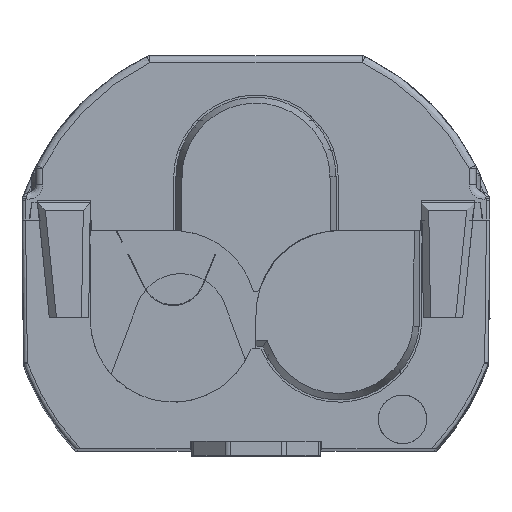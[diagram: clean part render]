
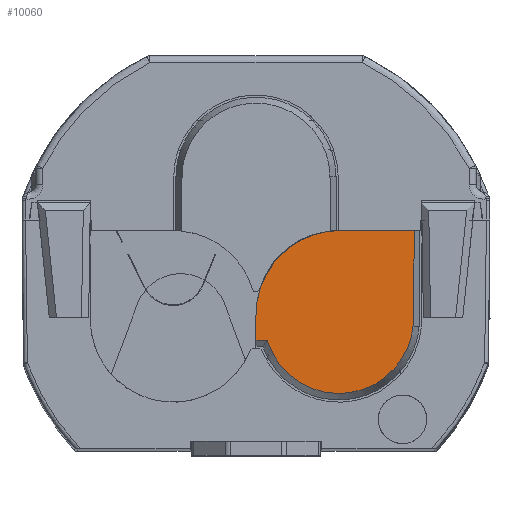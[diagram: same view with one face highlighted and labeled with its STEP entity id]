
A CAD part, top view. The second image highlights one B-rep face of the part: STEP entity #10060.
In plain terms, the highlighted planar face has unit normal (0, 0.009, 1).
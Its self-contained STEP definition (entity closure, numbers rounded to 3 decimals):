
#71 = ORIENTED_EDGE ( 'NONE', *, *, #4786, .T. ) ;
#294 = CARTESIAN_POINT ( 'NONE',  ( 18.051, 7.938, 106.393 ) ) ;
#822 = CARTESIAN_POINT ( 'NONE',  ( -30.25, 30., 106.2 ) ) ;
#892 = DIRECTION ( 'NONE',  ( 0., -1., 0.009 ) ) ;
#1033 = B_SPLINE_CURVE_WITH_KNOTS ( 'NONE', 3,
 ( #9319, #6972, #6773, #14574, #12840, #15523, #1915, #12918, #11566, #13015, #16659, #11211, #11438, #11490, #2361, #17556, #19202, #3410, #8107, #10471, #2616, #9988, #19415, #19881, #15786, #5711, #5426, #5081, #10069, #11608, #4947, #11548, #4039, #16054, #14437, #294, #5308, #5375, #16191, #13667, #13468, #1106, #8605, #3952, #4094, #8383 ),
 .UNSPECIFIED., .F., .F.,
 ( 4, 2, 2, 2, 2, 2, 2, 2, 2, 2, 2, 2, 2, 2, 2, 2, 2, 2, 2, 2, 2, 2, 4 ),
 ( 0.125, 0.126, 0.127, 0.129, 0.13, 0.131, 0.133, 0.134, 0.134, 0.136, 0.137, 0.138, 0.14, 0.141, 0.142, 0.144, 0.145, 0.145, 0.147, 0.149, 0.151, 0.153, 0.155 ),
 .UNSPECIFIED. ) ;
#1106 = CARTESIAN_POINT ( 'NONE',  ( 21.265, 12.195, 106.355 ) ) ;
#1206 = VERTEX_POINT ( 'NONE', #4330 ) ;
#1526 = CARTESIAN_POINT ( 'NONE',  ( 0., 13.16, 106.347 ) ) ;
#1730 = VECTOR ( 'NONE', #14483, 1000. ) ;
#1847 = VECTOR ( 'NONE', #5542, 1000. ) ;
#1915 = CARTESIAN_POINT ( 'NONE',  ( 2.822, 10.464, 106.37 ) ) ;
#2361 = CARTESIAN_POINT ( 'NONE',  ( 6.257, 7.179, 106.399 ) ) ;
#2616 = CARTESIAN_POINT ( 'NONE',  ( 9.594, 5.907, 106.41 ) ) ;
#2880 = CARTESIAN_POINT ( 'NONE',  ( 11.75, 28.5, 106.213 ) ) ;
#3029 = EDGE_CURVE ( 'NONE', #9860, #11662, #6878, .T. ) ;
#3410 = CARTESIAN_POINT ( 'NONE',  ( 7.862, 6.389, 106.406 ) ) ;
#3524 = AXIS2_PLACEMENT_3D ( 'NONE', #822, #10103, #892 ) ;
#3610 = VERTEX_POINT ( 'NONE', #17916 ) ;
#3952 = CARTESIAN_POINT ( 'NONE',  ( 21.798, 13.9, 106.34 ) ) ;
#4039 = CARTESIAN_POINT ( 'NONE',  ( 16.55, 6.968, 106.401 ) ) ;
#4094 = CARTESIAN_POINT ( 'NONE',  ( 21.911, 14.486, 106.335 ) ) ;
#4330 = CARTESIAN_POINT ( 'NONE',  ( 22.175, 28.5, 106.213 ) ) ;
#4786 = EDGE_CURVE ( 'NONE', #3610, #16745, #1033, .T. ) ;
#4858 = DIRECTION ( 'NONE',  ( 0., -1., 0.009 ) ) ;
#4947 = CARTESIAN_POINT ( 'NONE',  ( 15.465, 6.446, 106.406 ) ) ;
#5020 = CARTESIAN_POINT ( 'NONE',  ( 0., 16.75, 106.316 ) ) ;
#5081 = CARTESIAN_POINT ( 'NONE',  ( 13.753, 5.941, 106.41 ) ) ;
#5251 = LINE ( 'NONE', #17971, #12987 ) ;
#5308 = CARTESIAN_POINT ( 'NONE',  ( 18.509, 8.319, 106.389 ) ) ;
#5375 = CARTESIAN_POINT ( 'NONE',  ( 19.365, 9.166, 106.382 ) ) ;
#5426 = CARTESIAN_POINT ( 'NONE',  ( 13.164, 5.834, 106.411 ) ) ;
#5480 = CARTESIAN_POINT ( 'NONE',  ( 0., 23.633, 106.256 ) ) ;
#5542 = DIRECTION ( 'NONE',  ( 1., 0., 0. ) ) ;
#5711 = CARTESIAN_POINT ( 'NONE',  ( 12.865, 5.792, 106.411 ) ) ;
#5973 = EDGE_LOOP ( 'NONE', ( #15076, #15731, #18949, #71, #14351, #17312 ) ) ;
#6122 = DIRECTION ( 'NONE',  ( 1., 0., 0. ) ) ;
#6205 = CARTESIAN_POINT ( 'NONE',  ( 21.973, 15.086, 106.33 ) ) ;
#6210 = VECTOR ( 'NONE', #4858, 1000. ) ;
#6670 = EDGE_CURVE ( 'NONE', #11662, #1206, #5251, .T. ) ;
#6773 = CARTESIAN_POINT ( 'NONE',  ( 1.768, 12.604, 106.352 ) ) ;
#6878 =( BOUNDED_CURVE ( )  B_SPLINE_CURVE ( 3, ( #5020, #5480, #12779, #2880 ),
 .UNSPECIFIED., .F., .T. ) 
 B_SPLINE_CURVE_WITH_KNOTS ( ( 4, 4 ),
 ( 1.571, 3.142 ),
 .UNSPECIFIED. ) 
 CURVE ( )  GEOMETRIC_REPRESENTATION_ITEM ( )  RATIONAL_B_SPLINE_CURVE ( ( 1., 0.805, 0.805, 1. ) ) 
 REPRESENTATION_ITEM ( '' )  );
#6972 = CARTESIAN_POINT ( 'NONE',  ( 1.655, 12.882, 106.349 ) ) ;
#8107 = CARTESIAN_POINT ( 'NONE',  ( 8.425, 6.193, 106.408 ) ) ;
#8203 = EDGE_CURVE ( 'NONE', #16745, #1206, #9918, .T. ) ;
#8383 = CARTESIAN_POINT ( 'NONE',  ( 21.973, 15.086, 106.33 ) ) ;
#8605 = CARTESIAN_POINT ( 'NONE',  ( 21.475, 12.755, 106.35 ) ) ;
#9319 = CARTESIAN_POINT ( 'NONE',  ( 1.542, 13.16, 106.347 ) ) ;
#9335 = CARTESIAN_POINT ( 'NONE',  ( 11.75, 28.5, 106.213 ) ) ;
#9860 = VERTEX_POINT ( 'NONE', #11065 ) ;
#9918 = LINE ( 'NONE', #12973, #1730 ) ;
#9988 = CARTESIAN_POINT ( 'NONE',  ( 10.185, 5.81, 106.411 ) ) ;
#10060 = ADVANCED_FACE ( 'NONE', ( #10087 ), #17790, .T. ) ;
#10069 = CARTESIAN_POINT ( 'NONE',  ( 14.043, 6.007, 106.409 ) ) ;
#10087 = FACE_OUTER_BOUND ( 'NONE', #5973, .T. ) ;
#10103 = DIRECTION ( 'NONE',  ( 0., 0.009, 1. ) ) ;
#10289 = LINE ( 'NONE', #12554, #6210 ) ;
#10447 = VERTEX_POINT ( 'NONE', #1526 ) ;
#10471 = CARTESIAN_POINT ( 'NONE',  ( 9.298, 5.969, 106.41 ) ) ;
#11065 = CARTESIAN_POINT ( 'NONE',  ( 0., 16.75, 106.316 ) ) ;
#11211 = CARTESIAN_POINT ( 'NONE',  ( 4.79, 8.216, 106.39 ) ) ;
#11220 = EDGE_CURVE ( 'NONE', #9860, #10447, #10289, .T. ) ;
#11438 = CARTESIAN_POINT ( 'NONE',  ( 5.253, 7.842, 106.393 ) ) ;
#11490 = CARTESIAN_POINT ( 'NONE',  ( 5.999, 7.338, 106.398 ) ) ;
#11548 = CARTESIAN_POINT ( 'NONE',  ( 16.282, 6.828, 106.402 ) ) ;
#11566 = CARTESIAN_POINT ( 'NONE',  ( 3.543, 9.502, 106.379 ) ) ;
#11608 = CARTESIAN_POINT ( 'NONE',  ( 14.905, 6.242, 106.407 ) ) ;
#11662 = VERTEX_POINT ( 'NONE', #9335 ) ;
#12554 = CARTESIAN_POINT ( 'NONE',  ( 0., 11.668, 106.36 ) ) ;
#12779 = CARTESIAN_POINT ( 'NONE',  ( 4.867, 28.5, 106.213 ) ) ;
#12840 = CARTESIAN_POINT ( 'NONE',  ( 2.113, 11.773, 106.359 ) ) ;
#12918 = CARTESIAN_POINT ( 'NONE',  ( 3.354, 9.738, 106.377 ) ) ;
#12973 = CARTESIAN_POINT ( 'NONE',  ( 22.228, 32.048, 106.182 ) ) ;
#12987 = VECTOR ( 'NONE', #6122, 1000. ) ;
#13015 = CARTESIAN_POINT ( 'NONE',  ( 3.939, 9.051, 106.383 ) ) ;
#13468 = CARTESIAN_POINT ( 'NONE',  ( 20.745, 11.108, 106.365 ) ) ;
#13667 = CARTESIAN_POINT ( 'NONE',  ( 20.441, 10.594, 106.369 ) ) ;
#14351 = ORIENTED_EDGE ( 'NONE', *, *, #8203, .T. ) ;
#14437 = CARTESIAN_POINT ( 'NONE',  ( 17.319, 7.427, 106.397 ) ) ;
#14483 = DIRECTION ( 'NONE',  ( 0.015, 1., -0.009 ) ) ;
#14574 = CARTESIAN_POINT ( 'NONE',  ( 1.993, 12.047, 106.357 ) ) ;
#14756 = CARTESIAN_POINT ( 'NONE',  ( 0.545, 13.16, 106.347 ) ) ;
#15076 = ORIENTED_EDGE ( 'NONE', *, *, #3029, .F. ) ;
#15523 = CARTESIAN_POINT ( 'NONE',  ( 2.512, 10.973, 106.366 ) ) ;
#15731 = ORIENTED_EDGE ( 'NONE', *, *, #11220, .T. ) ;
#15786 = CARTESIAN_POINT ( 'NONE',  ( 11.967, 5.709, 106.412 ) ) ;
#16054 = CARTESIAN_POINT ( 'NONE',  ( 17.068, 7.267, 106.398 ) ) ;
#16191 = CARTESIAN_POINT ( 'NONE',  ( 19.752, 9.624, 106.378 ) ) ;
#16473 = EDGE_CURVE ( 'NONE', #10447, #3610, #18224, .T. ) ;
#16659 = CARTESIAN_POINT ( 'NONE',  ( 4.145, 8.835, 106.385 ) ) ;
#16745 = VERTEX_POINT ( 'NONE', #6205 ) ;
#17312 = ORIENTED_EDGE ( 'NONE', *, *, #6670, .F. ) ;
#17556 = CARTESIAN_POINT ( 'NONE',  ( 6.781, 6.888, 106.402 ) ) ;
#17790 = PLANE ( 'NONE',  #3524 ) ;
#17916 = CARTESIAN_POINT ( 'NONE',  ( 1.542, 13.16, 106.347 ) ) ;
#17971 = CARTESIAN_POINT ( 'NONE',  ( -30.25, 28.5, 106.213 ) ) ;
#18224 = LINE ( 'NONE', #14756, #1847 ) ;
#18949 = ORIENTED_EDGE ( 'NONE', *, *, #16473, .T. ) ;
#19202 = CARTESIAN_POINT ( 'NONE',  ( 7.047, 6.755, 106.403 ) ) ;
#19415 = CARTESIAN_POINT ( 'NONE',  ( 10.481, 5.774, 106.411 ) ) ;
#19881 = CARTESIAN_POINT ( 'NONE',  ( 11.371, 5.705, 106.412 ) ) ;
